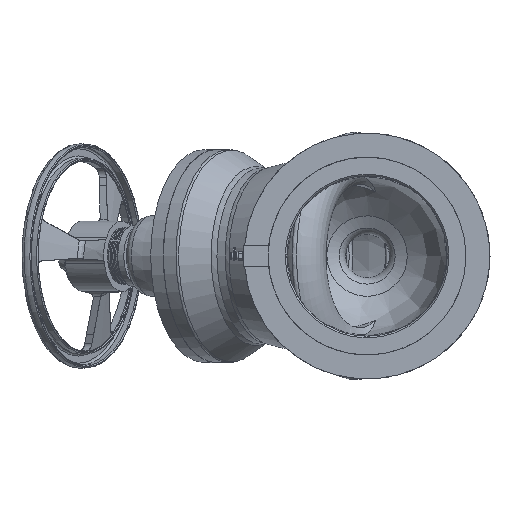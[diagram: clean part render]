
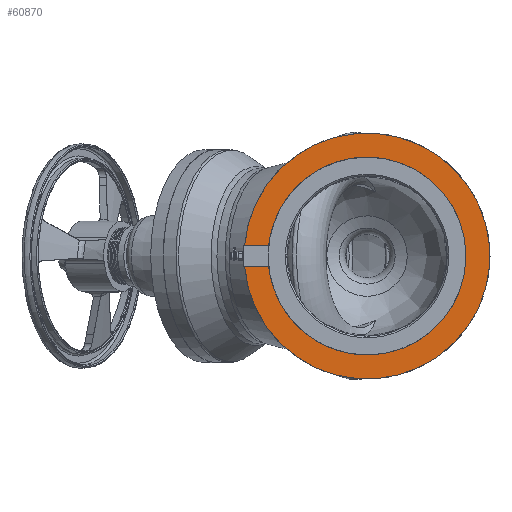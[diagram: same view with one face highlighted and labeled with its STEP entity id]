
A CAD part, left-side view. The second image highlights one B-rep face of the part: STEP entity #60870.
In plain terms, the highlighted planar face has unit normal (-1, 0, 0) by its records, which use the part's own axes.
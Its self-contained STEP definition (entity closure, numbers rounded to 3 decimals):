
#51624=CARTESIAN_POINT('',(-846.,229.213,19.015));
#51625=VERTEX_POINT('',#51624);
#51642=CARTESIAN_POINT('',(-846.,229.213,-19.015));
#51643=VERTEX_POINT('',#51642);
#51644=CARTESIAN_POINT('',(-846.,0.0,0.0));
#51645=DIRECTION('',(-1.0,0.0,0.0));
#51646=DIRECTION('',(0.0,-1.0,0.0));
#51647=AXIS2_PLACEMENT_3D('',#51644,#51645,#51646);
#51648=CIRCLE('',#51647,230.);
#51649=EDGE_CURVE('',#51643,#51625,#51648,.T.);
#60839=CARTESIAN_POINT('',(-846.,-207.5,0.0));
#60840=DIRECTION('',(-1.0,0.0,0.0));
#60841=DIRECTION('',(0.0,0.0,1.0));
#60842=AXIS2_PLACEMENT_3D('',#60839,#60840,#60841);
#60843=PLANE('',#60842);
#60844=CARTESIAN_POINT('',(-846.,184.02,19.015));
#60845=VERTEX_POINT('',#60844);
#60846=CARTESIAN_POINT('',(-846.,229.213,19.015));
#60847=DIRECTION('',(0.,-1.0,0.));
#60848=VECTOR('',#60847,45.193);
#60849=LINE('',#60846,#60848);
#60850=EDGE_CURVE('',#51625,#60845,#60849,.T.);
#60851=ORIENTED_EDGE('',*,*,#60850,.T.);
#60852=CARTESIAN_POINT('',(-846.,184.02,-19.015));
#60853=VERTEX_POINT('',#60852);
#60854=CARTESIAN_POINT('',(-846.,0.0,0.0));
#60855=DIRECTION('',(-1.0,0.0,0.0));
#60856=DIRECTION('',(0.0,-1.0,0.0));
#60857=AXIS2_PLACEMENT_3D('',#60854,#60855,#60856);
#60858=CIRCLE('',#60857,185.);
#60859=EDGE_CURVE('',#60853,#60845,#60858,.T.);
#60860=ORIENTED_EDGE('',*,*,#60859,.F.);
#60861=CARTESIAN_POINT('',(-846.,184.02,-19.015));
#60862=DIRECTION('',(0.,1.0,0.));
#60863=VECTOR('',#60862,45.193);
#60864=LINE('',#60861,#60863);
#60865=EDGE_CURVE('',#60853,#51643,#60864,.T.);
#60866=ORIENTED_EDGE('',*,*,#60865,.T.);
#60867=ORIENTED_EDGE('',*,*,#51649,.T.);
#60868=EDGE_LOOP('',(#60851,#60860,#60866,#60867));
#60869=FACE_OUTER_BOUND('',#60868,.T.);
#60870=ADVANCED_FACE('',(#60869),#60843,.T.);
